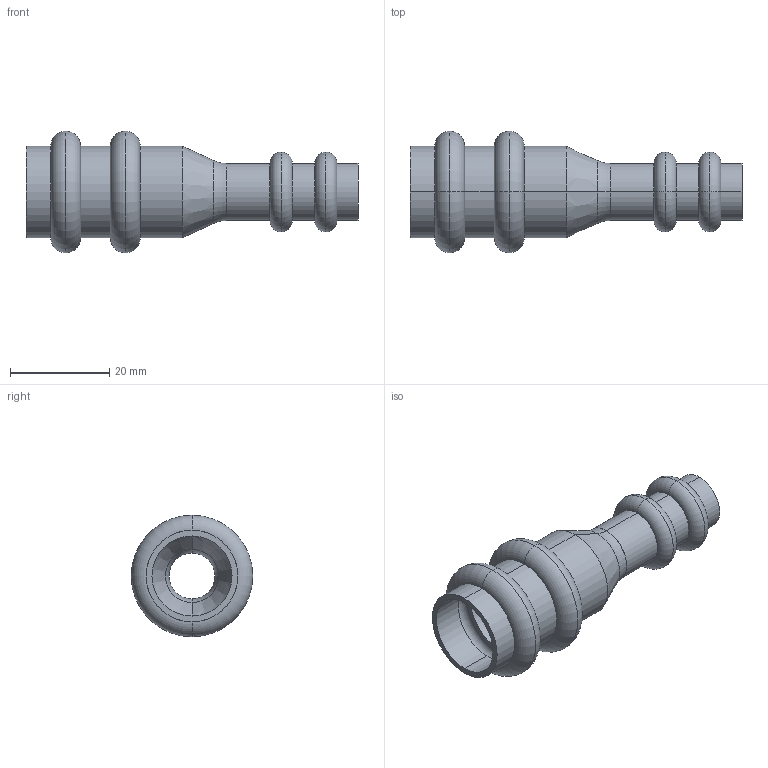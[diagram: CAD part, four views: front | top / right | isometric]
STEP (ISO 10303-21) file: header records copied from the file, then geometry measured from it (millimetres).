
FILE_DESCRIPTION(('starvars output'),'1');
FILE_NAME('cv20240422105256000011714.stp','10:52:56 2024/04/22',('Thomas Industrial Network Germany GmbH'),(' '),'Spatial InterOp 3D',' ',' ');
FILE_SCHEMA(('AUTOMOTIVE_DESIGN { 1 0 10303 214 3 1 1 }'));
Length unit declared in the file: millimetre
Products named in the file (1): 1
Bounding box: 66.89 x 24.5 x 24.5 mm (x, y, z)
Volume: 4396.6 mm3; surface area: 7956.9 mm2
Topology: 1 solids, 1 shells, 84 faces, 168 edges, 104 vertices
Faces by surface type: torus 36, cylinder 24, plane 20, cone 4
Entity records: 2940 total; most frequent: DIRECTION 478, CARTESIAN_POINT 357, ORIENTED_EDGE 336, AXIS2_PLACEMENT_3D 225, EDGE_CURVE 168, CIRCLE 140, EDGE_LOOP 104, VERTEX_POINT 104
